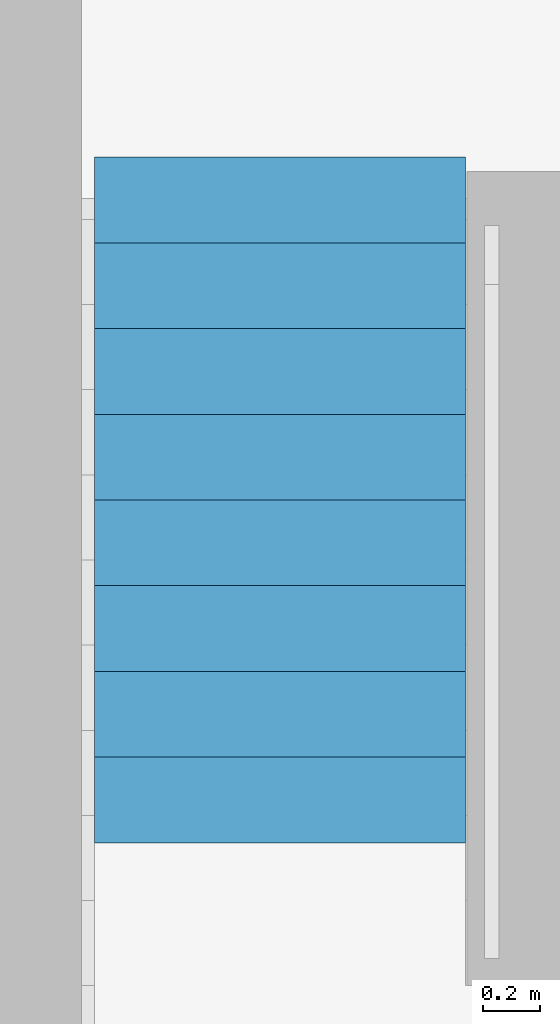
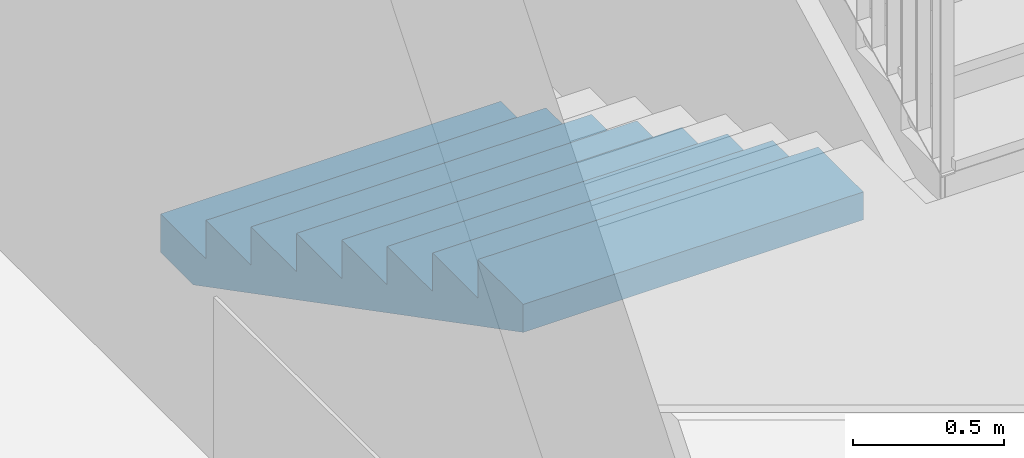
# One storey, part 16 of 23: 1 stair flight, 1 element without a shape of its own.
"""IFC2X3 building model written with IfcOpenShell, lengths in millimetres."""

from ifc_helpers import new_model, entity, si_unit, converted_unit, derived_unit, direction, frame, origin, place, context, subcontext, project, spatial, faceted_brep, material, type_object, element, aggregate, save


model = new_model("IFC2X3")

# Units and contexts
model_context = context("Model", 3, precision=0.01, world=origin(), true_north=direction((6.12303176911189e-17, 1.0)))
body_context = subcontext(model_context, "Body", "Model", "MODEL_VIEW")
ifc_project = project(units=[si_unit("LENGTHUNIT", "METRE", prefix="MILLI"), si_unit("AREAUNIT", "SQUARE_METRE"), si_unit("VOLUMEUNIT", "CUBIC_METRE"), converted_unit("PLANEANGLEUNIT", "DEGREE", entity("IfcRatioMeasure", 0.0174532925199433), si_unit("PLANEANGLEUNIT", "RADIAN"), dimensions=[0, 0, 0, 0, 0, 0, 0]), si_unit("MASSUNIT", "GRAM", prefix="KILO"), derived_unit("MASSDENSITYUNIT", [(si_unit("MASSUNIT", "GRAM", prefix="KILO"), 1), (si_unit("LENGTHUNIT", "METRE"), -3)]), si_unit("TIMEUNIT", "SECOND"), si_unit("FREQUENCYUNIT", "HERTZ"), si_unit("THERMODYNAMICTEMPERATUREUNIT", "DEGREE_CELSIUS"), derived_unit("THERMALTRANSMITTANCEUNIT", [(si_unit("MASSUNIT", "GRAM", prefix="KILO"), 1), (si_unit("THERMODYNAMICTEMPERATUREUNIT", "KELVIN"), -1), (si_unit("TIMEUNIT", "SECOND"), -3)]), derived_unit("VOLUMETRICFLOWRATEUNIT", [(si_unit("LENGTHUNIT", "METRE"), 3), (si_unit("TIMEUNIT", "SECOND"), -1)]), si_unit("ELECTRICCURRENTUNIT", "AMPERE"), si_unit("ELECTRICVOLTAGEUNIT", "VOLT"), si_unit("POWERUNIT", "WATT"), si_unit("FORCEUNIT", "NEWTON", prefix="KILO"), si_unit("ILLUMINANCEUNIT", "LUX"), si_unit("LUMINOUSFLUXUNIT", "LUMEN"), si_unit("LUMINOUSINTENSITYUNIT", "CANDELA"), derived_unit("USERDEFINED", [(si_unit("MASSUNIT", "GRAM", prefix="KILO"), -1), (si_unit("LENGTHUNIT", "METRE"), -2), (si_unit("TIMEUNIT", "SECOND"), 3), (si_unit("LUMINOUSFLUXUNIT", "LUMEN"), 1)]), derived_unit("LINEARVELOCITYUNIT", [(si_unit("LENGTHUNIT", "METRE"), 1), (si_unit("TIMEUNIT", "SECOND"), -1)]), si_unit("PRESSUREUNIT", "PASCAL"), derived_unit("USERDEFINED", [(si_unit("LENGTHUNIT", "METRE"), -2), (si_unit("MASSUNIT", "GRAM", prefix="KILO"), 1), (si_unit("TIMEUNIT", "SECOND"), -2)]), derived_unit("LINEARFORCEUNIT", [(si_unit("MASSUNIT", "GRAM", prefix="KILO"), 1), (si_unit("LENGTHUNIT", "METRE"), 1), (si_unit("TIMEUNIT", "SECOND"), -2), (si_unit("LENGTHUNIT", "METRE"), -1)]), derived_unit("PLANARFORCEUNIT", [(si_unit("MASSUNIT", "GRAM", prefix="KILO"), 1), (si_unit("LENGTHUNIT", "METRE"), 1), (si_unit("TIMEUNIT", "SECOND"), -2), (si_unit("LENGTHUNIT", "METRE"), -2)])], contexts=[model_context])

# Site, building, storey
site_placement = place(None, origin())
site = spatial("IfcSite", under=ifc_project, at=site_placement, Name="Default", CompositionType="ELEMENT")
building_placement = place(site_placement, origin())
building = spatial("IfcBuilding", under=site, at=building_placement, Name="SMA ARH", CompositionType="ELEMENT")
storey_placement = place(building_placement, frame((0.0, 0.0, -2800.0)))
storey = spatial("IfcBuildingStorey", under=building, at=storey_placement, Name="0 Sokkel", CompositionType="ELEMENT", Elevation=-2800.0)

# Stair, stair flight
stair_placement = place(storey_placement, origin())
stair = element("IfcStair", 1, at=stair_placement, inside=storey, Name="Cast-In-Place Stair:Stair", ObjectType="Cast-In-Place Stair:Cast-In-Place Stair", ShapeType="STRAIGHT_RUN_STAIR")
ifc_material = material(Name="EST. Betoon. Armeeritud. Monteeritav(1)")
stair_flight_type = type_object("IfcStairFlightType", Name="Monolithic Run:Monolithic Run", PredefinedType="STRAIGHT")
stair_flight_placement = place(stair_placement, frame((30875.0, 2490.0, 0.0)))
stair_flight = element("IfcStairFlight", 2, at=stair_flight_placement, type_object=stair_flight_type, material=ifc_material, Name="Cast-In-Place Stair:Stair:911102 Run 1", ObjectType="Monolithic Run:Monolithic Run", NumberOfRiser=9, NumberOfTreads=8, RiserHeight=0.510352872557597, TreadLength=0.984251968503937, context=body_context, shape_type="Brep", body=[
    faceted_brep([(1300.0, 2100.0, 195.555555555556), (1300.0, 2400.0, 195.555555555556), (0.0, 2400.0, 195.555555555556), (0.0, 2100.0, 195.555555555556), (1300.0, 2100.0, 82.9118049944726), (1300.0, 2182.75848106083, 40.0), (1300.0, 2400.0, 40.0), (0.0, 2400.0, 40.0), (0.0, 2182.7584810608, 40.0), (0.0, 2100.0, 82.9118049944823), (1300.0, 1800.0, 351.111111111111), (1300.0, 2100.0, 351.111111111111), (0.0, 2100.0, 351.111111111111), (0.0, 1800.0, 351.111111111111), (1300.0, 1800.0, 238.467360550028), (0.0, 1800.0, 238.467360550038), (1300.0, 1500.0, 506.666666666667), (1300.0, 1800.0, 506.666666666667), (0.0, 1800.0, 506.666666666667), (0.0, 1500.0, 506.666666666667), (1300.0, 1500.0, 394.022916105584), (0.0, 1500.0, 394.022916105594), (1300.0, 1200.0, 662.222222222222), (1300.0, 1500.0, 662.222222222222), (0.0, 1500.0, 662.222222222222), (0.0, 1200.0, 662.222222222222), (1300.0, 1200.0, 549.578471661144), (0.0, 1200.0, 549.578471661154), (1300.0, 900.0, 817.777777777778), (1300.0, 1200.0, 817.777777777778), (0.0, 1200.0, 817.777777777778), (0.0, 900.0, 817.777777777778), (1300.0, 900.0, 705.134027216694), (0.0, 900.0, 705.134027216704), (1300.0, 600.0, 973.333333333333), (1300.0, 900.0, 973.333333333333), (0.0, 900.0, 973.333333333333), (0.0, 600.0, 973.333333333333), (1300.0, 600.0, 860.68958277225), (0.0, 600.0, 860.68958277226), (1300.0, 300.0, 1128.88888888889), (1300.0, 600.0, 1128.88888888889), (0.0, 600.0, 1128.88888888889), (0.0, 300.0, 1128.88888888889), (1300.0, 300.0, 1016.24513832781), (0.0, 300.0, 1016.24513832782), (1300.0, 0.0, 1171.80069388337), (0.0, 0.0, 1171.80069388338), (1300.0, 0.0, 1284.44444444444), (1300.0, 300.0, 1284.44444444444), (0.0, 300.0, 1284.44444444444), (0.0, 0.0, 1284.44444444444)], [[[0, 1, 2, 3]], [[1, 0, 4, 5, 6]], [[2, 1, 6, 7]], [[3, 2, 7, 8, 9]], [[10, 11, 12, 13]], [[11, 10, 14, 4, 0]], [[0, 3, 12, 11]], [[13, 12, 3, 9, 15]], [[16, 17, 18, 19]], [[17, 16, 20, 14, 10]], [[10, 13, 18, 17]], [[19, 18, 13, 15, 21]], [[22, 23, 24, 25]], [[23, 22, 26, 20, 16]], [[16, 19, 24, 23]], [[25, 24, 19, 21, 27]], [[28, 29, 30, 31]], [[29, 28, 32, 26, 22]], [[22, 25, 30, 29]], [[31, 30, 25, 27, 33]], [[34, 35, 36, 37]], [[35, 34, 38, 32, 28]], [[28, 31, 36, 35]], [[37, 36, 31, 33, 39]], [[40, 41, 42, 43]], [[41, 40, 44, 38, 34]], [[34, 37, 42, 41]], [[43, 42, 37, 39, 45]], [[7, 6, 5, 8]], [[8, 5, 4, 14, 20, 26, 32, 38, 44, 46, 47, 45, 39, 33, 27, 21, 15, 9]], [[48, 49, 50, 51]], [[49, 48, 46, 44, 40]], [[40, 43, 50, 49]], [[51, 50, 43, 45, 47]], [[48, 51, 47, 46]]]),
])
aggregate(stair, [stair_flight])

save(model, "model.ifc")
